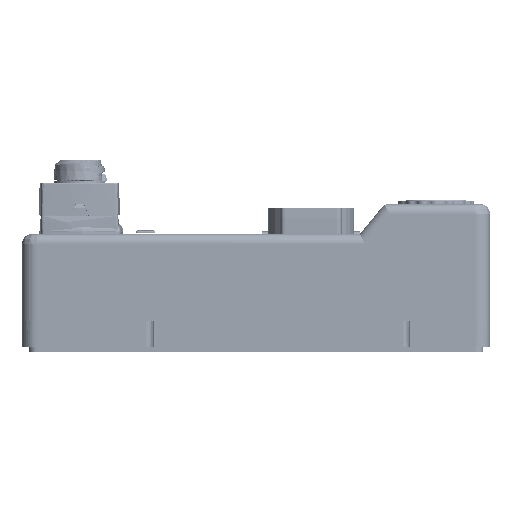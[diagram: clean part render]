
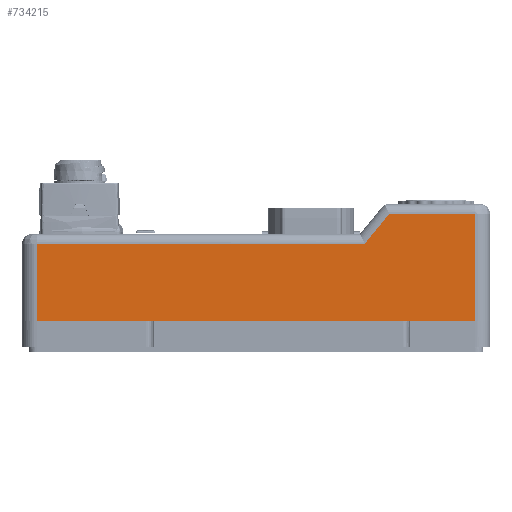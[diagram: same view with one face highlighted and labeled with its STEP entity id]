
A CAD part, front view. The second image highlights one B-rep face of the part: STEP entity #734215.
In plain terms, the highlighted planar face has unit normal (0, -1, 0).
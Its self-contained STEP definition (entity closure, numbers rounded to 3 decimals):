
#2935 = DIRECTION ( 'NONE',  ( 1., 0., 0. ) ) ;
#13317 = ORIENTED_EDGE ( 'NONE', *, *, #719261, .T. ) ;
#15117 = VERTEX_POINT ( 'NONE', #98162 ) ;
#30101 = FACE_OUTER_BOUND ( 'NONE', #88900, .T. ) ;
#62267 = DIRECTION ( 'NONE',  ( 0., -1., 0. ) ) ;
#64037 = DIRECTION ( 'NONE',  ( 0., 0., -1. ) ) ;
#73609 = CARTESIAN_POINT ( 'NONE',  ( 13., 5., 78. ) ) ;
#85350 = LINE ( 'NONE', #381484, #517749 ) ;
#86571 = DIRECTION ( 'NONE',  ( -1., 0., 0. ) ) ;
#88900 = EDGE_LOOP ( 'NONE', ( #13317, #302308, #884038, #349781, #295723, #244183 ) ) ;
#98162 = CARTESIAN_POINT ( 'NONE',  ( 13., 5., 78. ) ) ;
#159204 = VECTOR ( 'NONE', #547468, 1000. ) ;
#244183 = ORIENTED_EDGE ( 'NONE', *, *, #269104, .T. ) ;
#255628 = CARTESIAN_POINT ( 'NONE',  ( 345.728, 5., 78. ) ) ;
#269104 = EDGE_CURVE ( 'NONE', #820442, #911036, #573869, .T. ) ;
#279522 = EDGE_CURVE ( 'NONE', #15117, #943920, #592862, .T. ) ;
#280564 = DIRECTION ( 'NONE',  ( 0., 0., -1. ) ) ;
#282957 = VECTOR ( 'NONE', #2935, 1000. ) ;
#289322 = LINE ( 'NONE', #662940, #282957 ) ;
#295723 = ORIENTED_EDGE ( 'NONE', *, *, #653677, .T. ) ;
#302308 = ORIENTED_EDGE ( 'NONE', *, *, #862520, .T. ) ;
#349781 = ORIENTED_EDGE ( 'NONE', *, *, #744199, .T. ) ;
#381484 = CARTESIAN_POINT ( 'NONE',  ( 370.728, 5., 108.4 ) ) ;
#472959 = VECTOR ( 'NONE', #86571, 1000. ) ;
#501106 = CARTESIAN_POINT ( 'NONE',  ( 13., 5., 108.4 ) ) ;
#517749 = VECTOR ( 'NONE', #827818, 1000. ) ;
#523419 = CARTESIAN_POINT ( 'NONE',  ( 458., 5., 0. ) ) ;
#542740 = LINE ( 'NONE', #761117, #472959 ) ;
#547468 = DIRECTION ( 'NONE',  ( 0., 0., 1. ) ) ;
#550899 = VECTOR ( 'NONE', #64037, 1000. ) ;
#573869 = LINE ( 'NONE', #501106, #954491 ) ;
#592862 = LINE ( 'NONE', #73609, #550899 ) ;
#615351 = CARTESIAN_POINT ( 'NONE',  ( 458., 5., 78. ) ) ;
#622090 = PLANE ( 'NONE',  #813708 ) ;
#640736 = CARTESIAN_POINT ( 'NONE',  ( 13., 5., 0. ) ) ;
#653677 = EDGE_CURVE ( 'NONE', #837092, #820442, #925499, .T. ) ;
#658969 = CARTESIAN_POINT ( 'NONE',  ( 13., 5., 78. ) ) ;
#662940 = CARTESIAN_POINT ( 'NONE',  ( 13., 5., 0. ) ) ;
#719261 = EDGE_CURVE ( 'NONE', #911036, #787268, #85350, .T. ) ;
#734215 = ADVANCED_FACE ( 'NONE', ( #30101 ), #622090, .T. ) ;
#744199 = EDGE_CURVE ( 'NONE', #943920, #837092, #289322, .T. ) ;
#761117 = CARTESIAN_POINT ( 'NONE',  ( 345.728, 5., 78. ) ) ;
#764862 = CARTESIAN_POINT ( 'NONE',  ( 458., 5., 108.4 ) ) ;
#787268 = VERTEX_POINT ( 'NONE', #255628 ) ;
#813708 = AXIS2_PLACEMENT_3D ( 'NONE', #658969, #62267, #280564 ) ;
#820442 = VERTEX_POINT ( 'NONE', #764862 ) ;
#827818 = DIRECTION ( 'NONE',  ( -0.635, 0., -0.772 ) ) ;
#837092 = VERTEX_POINT ( 'NONE', #523419 ) ;
#862520 = EDGE_CURVE ( 'NONE', #787268, #15117, #542740, .T. ) ;
#874380 = DIRECTION ( 'NONE',  ( -1., 0., 0. ) ) ;
#884038 = ORIENTED_EDGE ( 'NONE', *, *, #279522, .T. ) ;
#899170 = CARTESIAN_POINT ( 'NONE',  ( 370.728, 5., 108.4 ) ) ;
#911036 = VERTEX_POINT ( 'NONE', #899170 ) ;
#925499 = LINE ( 'NONE', #615351, #159204 ) ;
#943920 = VERTEX_POINT ( 'NONE', #640736 ) ;
#954491 = VECTOR ( 'NONE', #874380, 1000. ) ;
